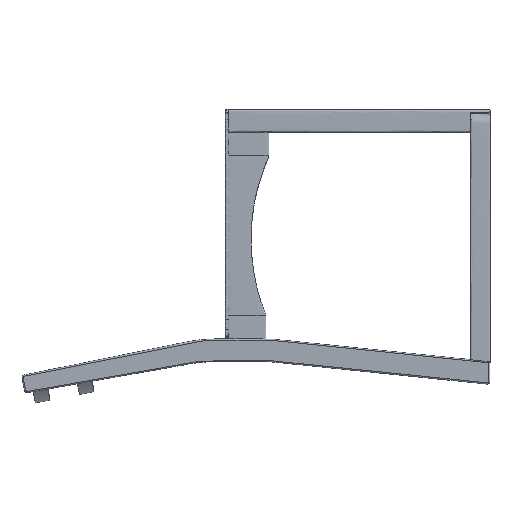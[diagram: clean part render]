
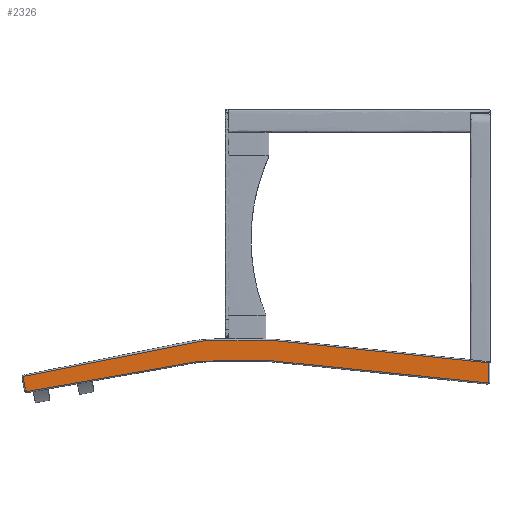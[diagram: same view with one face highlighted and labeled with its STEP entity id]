
A CAD part, left-side view. The second image highlights one B-rep face of the part: STEP entity #2326.
In plain terms, the highlighted planar face has unit normal (-1, 0, 0).
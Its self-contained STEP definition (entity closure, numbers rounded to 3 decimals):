
#176=PLANE('',#2397);
#352=FACE_OUTER_BOUND('',#514,.T.);
#514=EDGE_LOOP('',(#2030));
#804=B_SPLINE_CURVE_WITH_KNOTS('',3,(#37873,#37874,#37875,#37876,#37877,
#37878,#37879,#37880,#37881,#37882,#37883,#37884,#37885,#37886,#37887,#37888,
#37889,#37890,#37891,#37892,#37893,#37894,#37895,#37896,#37897,#37898,#37899,
#37900,#37901,#37902,#37903,#37904,#37905,#37906,#37907,#37908,#37909,#37910,
#37911,#37912,#37913,#37914,#37915,#37916,#37917,#37918,#37919,#37920,#37921,
#37922,#37923,#37924,#37925,#37926,#37927,#37928,#37929,#37930,#37931,#37932,
#37933,#37934,#37935,#37936,#37937,#37938,#37939,#37940,#37941,#37942,#37943,
#37944,#37945,#37946,#37947,#37948,#37949,#37950,#37951,#37952,#37953,#37954,
#37955,#37956,#37957,#37958,#37959,#37960,#37961,#37962,#37963,#37964,#37965,
#37966,#37967,#37968,#37969,#37970,#37971,#37972),.UNSPECIFIED.,.T.,.F.,
(4,1,1,1,1,1,1,1,1,1,1,1,1,1,1,1,1,1,1,1,1,1,1,1,1,1,1,1,1,1,1,1,1,1,1,
1,1,1,1,1,1,1,1,1,1,1,1,1,1,1,1,1,1,1,1,1,1,1,1,1,1,1,1,1,1,1,1,1,1,1,1,
1,1,1,1,1,1,1,1,1,1,1,1,1,1,1,1,1,1,1,1,1,1,1,1,1,1,4),(0.,1.,2.,3.,4.,
5.,6.,7.,8.,9.,10.,11.,12.,13.,14.,15.,16.,17.,18.,19.,20.,21.,22.,23.,
24.,25.,26.,27.,28.,29.,30.,31.,32.,33.,34.,35.,36.,37.,38.,39.,40.,41.,
42.,43.,44.,45.,46.,47.,48.,49.,50.,51.,52.,53.,54.,55.,56.,57.,58.,59.,
60.,61.,62.,64.,65.,66.,67.,68.,69.,70.,71.,72.,73.,74.,75.,76.,77.,78.,
79.,80.,81.,82.,83.,84.,85.,86.,87.,88.,89.,90.,91.,92.,93.,94.,95.,96.,
97.,98.),.UNSPECIFIED.);
#1016=VERTEX_POINT('',#37860);
#1357=EDGE_CURVE('',#1016,#1016,#804,.T.);
#2030=ORIENTED_EDGE('',*,*,#1357,.F.);
#2326=ADVANCED_FACE('',(#352),#176,.F.);
#2397=AXIS2_PLACEMENT_3D('',#38073,#2539,#2540);
#2539=DIRECTION('center_axis',(1.,0.,0.));
#2540=DIRECTION('ref_axis',(0.,-1.,0.));
#37860=CARTESIAN_POINT('',(-230.014,1.319,-455.524));
#37873=CARTESIAN_POINT('Ctrl Pts',(-230.014,1.319,-455.524));
#37874=CARTESIAN_POINT('Ctrl Pts',(-230.014,1.336,-455.598));
#37875=CARTESIAN_POINT('Ctrl Pts',(-230.014,1.376,-455.744));
#37876=CARTESIAN_POINT('Ctrl Pts',(-230.014,1.452,-455.958));
#37877=CARTESIAN_POINT('Ctrl Pts',(-230.014,1.544,-456.165));
#37878=CARTESIAN_POINT('Ctrl Pts',(-230.014,1.651,-456.364));
#37879=CARTESIAN_POINT('Ctrl Pts',(-230.014,1.774,-456.555));
#37880=CARTESIAN_POINT('Ctrl Pts',(-230.014,1.911,-456.737));
#37881=CARTESIAN_POINT('Ctrl Pts',(-230.014,2.062,-456.909));
#37882=CARTESIAN_POINT('Ctrl Pts',(-230.014,2.227,-457.07));
#37883=CARTESIAN_POINT('Ctrl Pts',(-230.014,2.404,-457.218));
#37884=CARTESIAN_POINT('Ctrl Pts',(-230.014,2.59,-457.35));
#37885=CARTESIAN_POINT('Ctrl Pts',(-230.014,2.786,-457.468));
#37886=CARTESIAN_POINT('Ctrl Pts',(-230.014,2.989,-457.57));
#37887=CARTESIAN_POINT('Ctrl Pts',(-230.014,3.198,-457.656));
#37888=CARTESIAN_POINT('Ctrl Pts',(-230.014,3.414,-457.727));
#37889=CARTESIAN_POINT('Ctrl Pts',(-230.014,3.635,-457.781));
#37890=CARTESIAN_POINT('Ctrl Pts',(-230.014,3.857,-457.818));
#37891=CARTESIAN_POINT('Ctrl Pts',(-230.014,4.084,-457.838));
#37892=CARTESIAN_POINT('Ctrl Pts',(-230.014,4.313,-457.84));
#37893=CARTESIAN_POINT('Ctrl Pts',(-230.014,4.582,-457.823));
#37894=CARTESIAN_POINT('Ctrl Pts',(-230.014,353.452,-421.784));
#37895=CARTESIAN_POINT('Ctrl Pts',(-230.014,359.08,-421.255));
#37896=CARTESIAN_POINT('Ctrl Pts',(-230.014,364.716,-420.832));
#37897=CARTESIAN_POINT('Ctrl Pts',(-230.014,370.359,-420.515));
#37898=CARTESIAN_POINT('Ctrl Pts',(-230.014,376.01,-420.304));
#37899=CARTESIAN_POINT('Ctrl Pts',(-230.014,383.065,-420.192));
#37900=CARTESIAN_POINT('Ctrl Pts',(-230.014,453.58,-420.185));
#37901=CARTESIAN_POINT('Ctrl Pts',(-230.014,463.183,-420.338));
#37902=CARTESIAN_POINT('Ctrl Pts',(-230.014,468.,-420.531));
#37903=CARTESIAN_POINT('Ctrl Pts',(-230.014,472.804,-420.799));
#37904=CARTESIAN_POINT('Ctrl Pts',(-230.014,477.603,-421.144));
#37905=CARTESIAN_POINT('Ctrl Pts',(-230.014,482.395,-421.565));
#37906=CARTESIAN_POINT('Ctrl Pts',(-230.014,487.181,-422.062));
#37907=CARTESIAN_POINT('Ctrl Pts',(-230.014,491.958,-422.636));
#37908=CARTESIAN_POINT('Ctrl Pts',(-230.014,496.726,-423.286));
#37909=CARTESIAN_POINT('Ctrl Pts',(-230.014,501.484,-424.012));
#37910=CARTESIAN_POINT('Ctrl Pts',(-230.014,506.216,-424.811));
#37911=CARTESIAN_POINT('Ctrl Pts',(-230.014,773.096,-472.076));
#37912=CARTESIAN_POINT('Ctrl Pts',(-230.014,773.606,-472.13));
#37913=CARTESIAN_POINT('Ctrl Pts',(-230.014,774.029,-472.113));
#37914=CARTESIAN_POINT('Ctrl Pts',(-230.014,774.439,-472.038));
#37915=CARTESIAN_POINT('Ctrl Pts',(-230.014,774.832,-471.907));
#37916=CARTESIAN_POINT('Ctrl Pts',(-230.014,775.202,-471.723));
#37917=CARTESIAN_POINT('Ctrl Pts',(-230.014,775.544,-471.491));
#37918=CARTESIAN_POINT('Ctrl Pts',(-230.014,775.851,-471.214));
#37919=CARTESIAN_POINT('Ctrl Pts',(-230.014,776.118,-470.897));
#37920=CARTESIAN_POINT('Ctrl Pts',(-230.014,776.339,-470.544));
#37921=CARTESIAN_POINT('Ctrl Pts',(-230.014,776.511,-470.156));
#37922=CARTESIAN_POINT('Ctrl Pts',(-230.014,776.649,-469.663));
#37923=CARTESIAN_POINT('Ctrl Pts',(-230.014,780.631,-450.087));
#37924=CARTESIAN_POINT('Ctrl Pts',(-230.014,780.696,-449.589));
#37925=CARTESIAN_POINT('Ctrl Pts',(-230.014,780.689,-449.128));
#37926=CARTESIAN_POINT('Ctrl Pts',(-230.014,780.668,-448.952));
#37927=CARTESIAN_POINT('Ctrl Pts',(-230.014,780.627,-448.743));
#37928=CARTESIAN_POINT('Ctrl Pts',(-230.014,780.572,-448.537));
#37929=CARTESIAN_POINT('Ctrl Pts',(-230.014,780.502,-448.336));
#37930=CARTESIAN_POINT('Ctrl Pts',(-230.014,780.418,-448.139));
#37931=CARTESIAN_POINT('Ctrl Pts',(-230.014,780.319,-447.948));
#37932=CARTESIAN_POINT('Ctrl Pts',(-230.014,780.207,-447.764));
#37933=CARTESIAN_POINT('Ctrl Pts',(-230.014,780.081,-447.589));
#37934=CARTESIAN_POINT('Ctrl Pts',(-230.014,779.943,-447.423));
#37935=CARTESIAN_POINT('Ctrl Pts',(-230.014,779.796,-447.269));
#37936=CARTESIAN_POINT('Ctrl Pts',(-230.014,779.585,-447.078));
#37937=CARTESIAN_POINT('Ctrl Pts',(-230.014,779.354,-446.912));
#37938=CARTESIAN_POINT('Ctrl Pts',(-230.014,779.108,-446.769));
#37939=CARTESIAN_POINT('Ctrl Pts',(-230.014,778.916,-446.676));
#37940=CARTESIAN_POINT('Ctrl Pts',(-230.014,778.718,-446.597));
#37941=CARTESIAN_POINT('Ctrl Pts',(-230.014,778.513,-446.531));
#37942=CARTESIAN_POINT('Ctrl Pts',(-230.014,778.268,-446.472));
#37943=CARTESIAN_POINT('Ctrl Pts',(-230.014,511.345,-392.169));
#37944=CARTESIAN_POINT('Ctrl Pts',(-230.014,506.004,-391.133));
#37945=CARTESIAN_POINT('Ctrl Pts',(-230.014,500.647,-390.194));
#37946=CARTESIAN_POINT('Ctrl Pts',(-230.014,495.275,-389.354));
#37947=CARTESIAN_POINT('Ctrl Pts',(-230.014,489.89,-388.612));
#37948=CARTESIAN_POINT('Ctrl Pts',(-230.014,484.492,-387.969));
#37949=CARTESIAN_POINT('Ctrl Pts',(-230.014,479.085,-387.425));
#37950=CARTESIAN_POINT('Ctrl Pts',(-230.014,473.667,-386.979));
#37951=CARTESIAN_POINT('Ctrl Pts',(-230.014,468.242,-386.632));
#37952=CARTESIAN_POINT('Ctrl Pts',(-230.014,462.811,-386.384));
#37953=CARTESIAN_POINT('Ctrl Pts',(-230.014,457.374,-386.235));
#37954=CARTESIAN_POINT('Ctrl Pts',(-230.014,451.915,-386.185));
#37955=CARTESIAN_POINT('Ctrl Pts',(-230.014,374.14,-386.303));
#37956=CARTESIAN_POINT('Ctrl Pts',(-230.014,371.365,-386.394));
#37957=CARTESIAN_POINT('Ctrl Pts',(-230.014,368.579,-386.512));
#37958=CARTESIAN_POINT('Ctrl Pts',(-230.014,365.794,-386.655));
#37959=CARTESIAN_POINT('Ctrl Pts',(-230.014,363.011,-386.825));
#37960=CARTESIAN_POINT('Ctrl Pts',(-230.014,360.229,-387.02));
#37961=CARTESIAN_POINT('Ctrl Pts',(-230.014,357.45,-387.242));
#37962=CARTESIAN_POINT('Ctrl Pts',(-230.014,354.672,-387.49));
#37963=CARTESIAN_POINT('Ctrl Pts',(-230.014,351.896,-387.763));
#37964=CARTESIAN_POINT('Ctrl Pts',(-230.014,3.905,-423.714));
#37965=CARTESIAN_POINT('Ctrl Pts',(-230.014,2.737,-424.002));
#37966=CARTESIAN_POINT('Ctrl Pts',(-230.014,1.904,-424.591));
#37967=CARTESIAN_POINT('Ctrl Pts',(-230.014,1.404,-425.481));
#37968=CARTESIAN_POINT('Ctrl Pts',(-230.014,1.238,-426.671));
#37969=CARTESIAN_POINT('Ctrl Pts',(-230.014,1.251,-455.112));
#37970=CARTESIAN_POINT('Ctrl Pts',(-230.014,1.273,-455.301));
#37971=CARTESIAN_POINT('Ctrl Pts',(-230.014,1.301,-455.45));
#37972=CARTESIAN_POINT('Ctrl Pts',(-230.014,1.319,-455.524));
#38073=CARTESIAN_POINT('Origin',(-230.014,419.191,-437.978));
